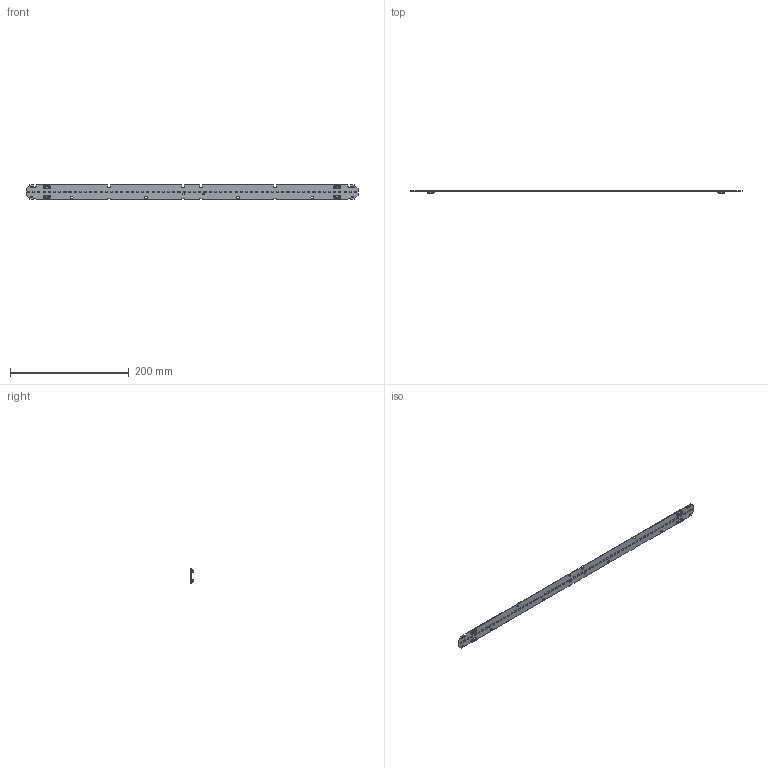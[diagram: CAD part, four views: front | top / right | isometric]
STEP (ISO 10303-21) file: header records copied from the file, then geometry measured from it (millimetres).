
FILE_DESCRIPTION(/* description */ ('Unknown'),/* implementation_level */ '2;1');
FILE_NAME(/* name */ 'LinLED 560x24mm 2200lm 840 2C+R 24V Opt G1 sh-000 2024-01-11',/* time_stamp */ '2024-01-11T13:29:44+01:00',/* author */ ('Unknown'),/* organization */ ('Unknown'),/* preprocessor_version */ 'ST-DEVELOPER v18.102',/* originating_system */ 'Solid Edge',/* authorisation */ 'Unknown');
FILE_SCHEMA (('AUTOMOTIVE_DESIGN {1 0 10303 214 3 1 1}'));
Products named in the file (1): LinLED 560x24mm 2200lm 840 2C+R 24V Opt G1 sh-000 2024-01-11
Bounding box: 559.6 x 4.45 x 24 mm (x, y, z)
Volume: 14040.8 mm3; surface area: 28983.2 mm2
Topology: 1 solids, 1 shells, 2137 faces, 5558 edges, 3564 vertices
Faces by surface type: plane 1527, cylinder 294, torus 128, cone 100, bspline 56, sphere 32
Full cylindrical faces by diameter (mm): 4.3 x4
Entity records: 81568 total; most frequent: CARTESIAN_POINT 16176, ORIENTED_EDGE 11012, DIRECTION 9234, EDGE_CURVE 5506, LINE 4102, VECTOR 4102, VERTEX_POINT 3552, AXIS2_PLACEMENT_3D 2566
